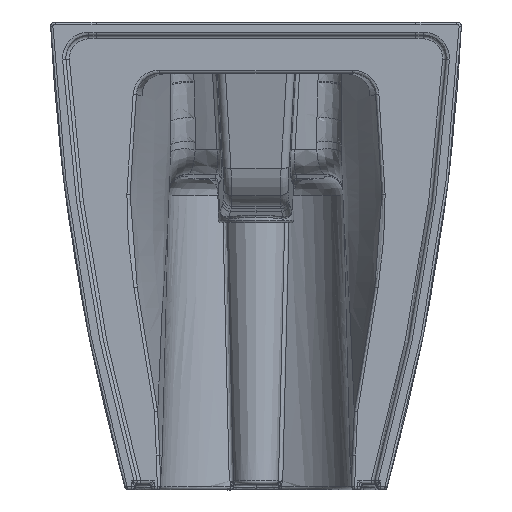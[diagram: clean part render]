
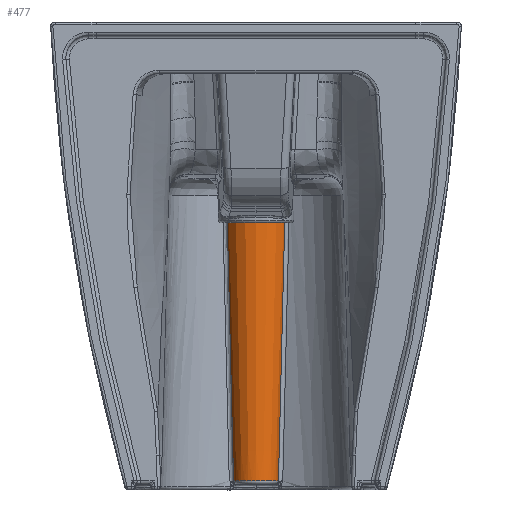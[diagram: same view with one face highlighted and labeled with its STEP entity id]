
A CAD part, left-side view. The second image highlights one B-rep face of the part: STEP entity #477.
In plain terms, the highlighted conical face has half-angle 2 degrees and reference radius 20 mm.
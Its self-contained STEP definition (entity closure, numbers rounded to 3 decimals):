
#477=ADVANCED_FACE('',(#749),#746,.T.);
#746=CONICAL_SURFACE('',#4091,20.,2.);
#749=FACE_OUTER_BOUND('',#1010,.T.);
#1010=EDGE_LOOP('',(#1456,#1457,#1458,#1459,#1460,#1461,#1462,#1463,#1464));
#1288=CIRCLE('',#4090,20.101);
#1456=ORIENTED_EDGE('',*,*,#3084,.T.);
#1457=ORIENTED_EDGE('',*,*,#3085,.T.);
#1458=ORIENTED_EDGE('',*,*,#3086,.T.);
#1459=ORIENTED_EDGE('',*,*,#3087,.T.);
#1460=ORIENTED_EDGE('',*,*,#3088,.T.);
#1461=ORIENTED_EDGE('',*,*,#3089,.T.);
#1462=ORIENTED_EDGE('',*,*,#3090,.T.);
#1463=ORIENTED_EDGE('',*,*,#3091,.T.);
#1464=ORIENTED_EDGE('',*,*,#3092,.T.);
#2716=VERTEX_POINT('',#4972);
#2717=VERTEX_POINT('',#4973);
#2718=VERTEX_POINT('',#4975);
#2719=VERTEX_POINT('',#4986);
#2720=VERTEX_POINT('',#4995);
#2721=VERTEX_POINT('',#5000);
#2722=VERTEX_POINT('',#5009);
#2723=VERTEX_POINT('',#5018);
#2724=VERTEX_POINT('',#5025);
#3084=EDGE_CURVE('',#2716,#2717,#3714,.T.);
#3085=EDGE_CURVE('',#2717,#2718,#1288,.T.);
#3086=EDGE_CURVE('',#2718,#2719,#3715,.T.);
#3087=EDGE_CURVE('',#2719,#2720,#3716,.T.);
#3088=EDGE_CURVE('',#2720,#2721,#3717,.T.);
#3089=EDGE_CURVE('',#2721,#2722,#3718,.T.);
#3090=EDGE_CURVE('',#2722,#2723,#3719,.T.);
#3091=EDGE_CURVE('',#2723,#2724,#3720,.T.);
#3092=EDGE_CURVE('',#2724,#2716,#3721,.T.);
#3714=B_SPLINE_CURVE_WITH_KNOTS('',3,(#4962,#4963,#4964,#4965,#4966,#4967,
#4968,#4969,#4970,#4971),.UNSPECIFIED.,.F.,.F.,(4,3,3,4),(0.,0.246,
0.738,1.),.UNSPECIFIED.);
#3715=B_SPLINE_CURVE_WITH_KNOTS('',3,(#4976,#4977,#4978,#4979,#4980,#4981,
#4982,#4983,#4984,#4985),.UNSPECIFIED.,.F.,.F.,(4,3,3,4),(0.,0.262,
0.754,1.),.UNSPECIFIED.);
#3716=B_SPLINE_CURVE_WITH_KNOTS('',3,(#4987,#4988,#4989,#4990,#4991,#4992,
#4993,#4994),.UNSPECIFIED.,.F.,.F.,(4,2,2,4),(0.,0.5,0.75,1.),
 .UNSPECIFIED.);
#3717=B_SPLINE_CURVE_WITH_KNOTS('',3,(#4996,#4997,#4998,#4999),
 .UNSPECIFIED.,.F.,.F.,(4,4),(0.,1.),.UNSPECIFIED.);
#3718=B_SPLINE_CURVE_WITH_KNOTS('',3,(#5001,#5002,#5003,#5004,#5005,#5006,
#5007,#5008),.UNSPECIFIED.,.F.,.F.,(4,2,2,4),(0.,0.25,0.5,1.),
 .UNSPECIFIED.);
#3719=B_SPLINE_CURVE_WITH_KNOTS('',3,(#5010,#5011,#5012,#5013,#5014,#5015,
#5016,#5017),.UNSPECIFIED.,.F.,.F.,(4,2,2,4),(0.,0.25,0.5,1.),
 .UNSPECIFIED.);
#3720=B_SPLINE_CURVE_WITH_KNOTS('',3,(#5019,#5020,#5021,#5022,#5023,#5024),
 .UNSPECIFIED.,.F.,.F.,(4,2,4),(0.,0.5,1.),.UNSPECIFIED.);
#3721=B_SPLINE_CURVE_WITH_KNOTS('',3,(#5026,#5027,#5028,#5029,#5030,#5031,
#5032,#5033),.UNSPECIFIED.,.F.,.F.,(4,2,2,4),(0.,0.25,0.5,
1.),.UNSPECIFIED.);
#4090=AXIS2_PLACEMENT_3D('',#4974,#4360,#4361);
#4091=AXIS2_PLACEMENT_3D('',#5034,#4362,#4363);
#4360=DIRECTION('',(0.,0.,1.));
#4361=DIRECTION('',(-1.,0.,0.));
#4362=DIRECTION('',(0.,0.,1.));
#4363=DIRECTION('',(1.,0.,0.));
#4962=CARTESIAN_POINT('',(307.302,25.672,257.548));
#4963=CARTESIAN_POINT('',(308.028,25.24,237.071));
#4964=CARTESIAN_POINT('',(308.769,24.803,216.594));
#4965=CARTESIAN_POINT('',(309.513,24.353,196.117));
#4966=CARTESIAN_POINT('',(311.002,23.452,155.165));
#4967=CARTESIAN_POINT('',(312.503,22.495,114.214));
#4968=CARTESIAN_POINT('',(313.971,21.442,73.265));
#4969=CARTESIAN_POINT('',(314.752,20.882,51.475));
#4970=CARTESIAN_POINT('',(315.525,20.295,29.685));
#4971=CARTESIAN_POINT('',(316.285,19.676,7.895));
#4972=CARTESIAN_POINT('',(307.302,25.672,257.548));
#4973=CARTESIAN_POINT('',(316.285,19.676,7.895));
#4974=CARTESIAN_POINT('',(320.396,0.,7.895));
#4975=CARTESIAN_POINT('',(316.285,-19.676,7.895));
#4976=CARTESIAN_POINT('',(316.285,-19.676,7.895));
#4977=CARTESIAN_POINT('',(315.525,-20.295,29.685));
#4978=CARTESIAN_POINT('',(314.752,-20.882,51.475));
#4979=CARTESIAN_POINT('',(313.971,-21.442,73.265));
#4980=CARTESIAN_POINT('',(312.503,-22.495,114.214));
#4981=CARTESIAN_POINT('',(311.002,-23.452,155.165));
#4982=CARTESIAN_POINT('',(309.513,-24.353,196.117));
#4983=CARTESIAN_POINT('',(308.769,-24.803,216.594));
#4984=CARTESIAN_POINT('',(308.028,-25.24,237.071));
#4985=CARTESIAN_POINT('',(307.302,-25.672,257.548));
#4986=CARTESIAN_POINT('',(307.302,-25.672,257.548));
#4987=CARTESIAN_POINT('',(307.302,-25.672,257.548));
#4988=CARTESIAN_POINT('',(307.19,-25.739,260.695));
#4989=CARTESIAN_POINT('',(306.026,-25.327,263.807));
#4990=CARTESIAN_POINT('',(303.233,-23.591,267.114));
#4991=CARTESIAN_POINT('',(302.129,-22.806,267.984));
#4992=CARTESIAN_POINT('',(299.911,-20.889,269.039));
#4993=CARTESIAN_POINT('',(298.802,-19.758,269.23));
#4994=CARTESIAN_POINT('',(297.806,-18.54,269.14));
#4995=CARTESIAN_POINT('',(297.806,-18.54,269.14));
#4996=CARTESIAN_POINT('',(297.806,-18.54,269.14));
#4997=CARTESIAN_POINT('',(294.474,-14.463,268.838));
#4998=CARTESIAN_POINT('',(292.292,-9.544,268.623));
#4999=CARTESIAN_POINT('',(291.513,-4.313,268.549));
#5000=CARTESIAN_POINT('',(291.513,-4.313,268.549));
#5001=CARTESIAN_POINT('',(291.513,-4.313,268.549));
#5002=CARTESIAN_POINT('',(291.479,-4.086,268.546));
#5003=CARTESIAN_POINT('',(291.438,-3.793,268.545));
#5004=CARTESIAN_POINT('',(291.353,-3.078,268.547));
#5005=CARTESIAN_POINT('',(291.307,-2.616,268.551));
#5006=CARTESIAN_POINT('',(291.206,-1.26,268.566));
#5007=CARTESIAN_POINT('',(291.192,-0.539,268.57));
#5008=CARTESIAN_POINT('',(291.192,-0.004,268.569));
#5009=CARTESIAN_POINT('',(291.192,0.,268.569));
#5010=CARTESIAN_POINT('',(291.192,0.004,268.569));
#5011=CARTESIAN_POINT('',(291.192,0.271,268.57));
#5012=CARTESIAN_POINT('',(291.196,0.585,268.569));
#5013=CARTESIAN_POINT('',(291.219,1.306,268.564));
#5014=CARTESIAN_POINT('',(291.236,1.674,268.561));
#5015=CARTESIAN_POINT('',(291.346,3.144,268.545));
#5016=CARTESIAN_POINT('',(291.446,3.858,268.542));
#5017=CARTESIAN_POINT('',(291.513,4.313,268.549));
#5018=CARTESIAN_POINT('',(291.513,4.313,268.549));
#5019=CARTESIAN_POINT('',(291.513,4.313,268.549));
#5020=CARTESIAN_POINT('',(291.903,6.929,268.586));
#5021=CARTESIAN_POINT('',(292.648,9.485,268.658));
#5022=CARTESIAN_POINT('',(294.772,14.273,268.86));
#5023=CARTESIAN_POINT('',(296.135,16.495,268.989));
#5024=CARTESIAN_POINT('',(297.806,18.54,269.14));
#5025=CARTESIAN_POINT('',(297.806,18.54,269.14));
#5026=CARTESIAN_POINT('',(297.806,18.54,269.14));
#5027=CARTESIAN_POINT('',(298.802,19.758,269.23));
#5028=CARTESIAN_POINT('',(299.907,20.885,269.04));
#5029=CARTESIAN_POINT('',(302.126,22.804,267.986));
#5030=CARTESIAN_POINT('',(303.226,23.586,267.12));
#5031=CARTESIAN_POINT('',(306.022,25.326,263.814));
#5032=CARTESIAN_POINT('',(307.19,25.739,260.696));
#5033=CARTESIAN_POINT('',(307.302,25.672,257.548));
#5034=CARTESIAN_POINT('',(320.396,0.,5.));
